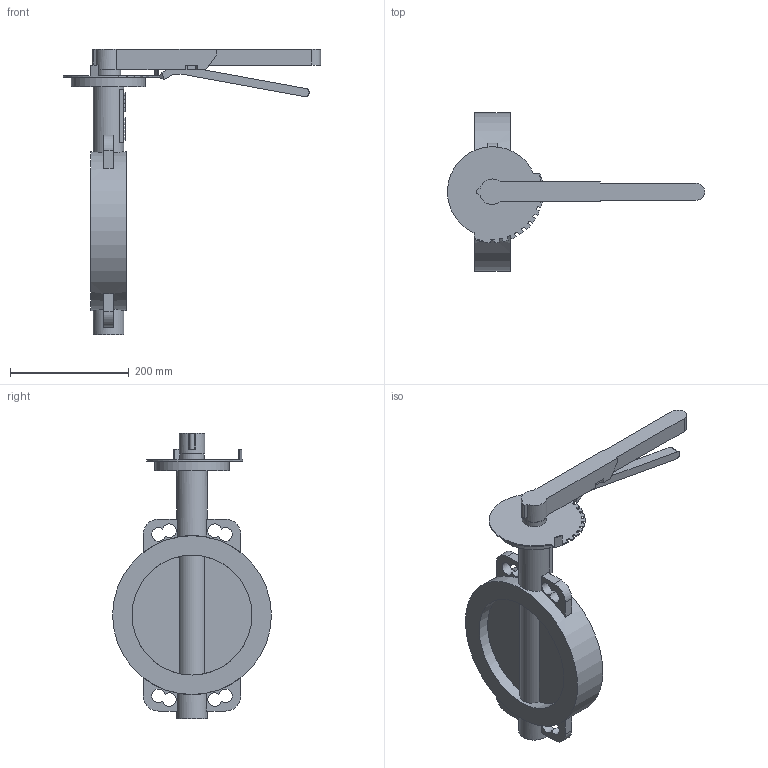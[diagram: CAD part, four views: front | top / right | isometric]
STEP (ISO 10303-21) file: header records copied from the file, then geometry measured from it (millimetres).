
FILE_DESCRIPTION(('STEP AP203'), '1');
FILE_NAME('Çàòâîð 017W.Z(÷óãóí) DN200 PN10_16 ðóêîÿòêà', '', ('UNSPECIFIED'), ('UNSPECIFIED'), 'ASCON STEP Converter 1.6', 'ASCON Math Kernel', '');
FILE_SCHEMA(('CONFIG_CONTROL_DESIGN'));
Length unit declared in the file: millimetre
Bounding box: 433.97 x 268 x 482 mm (x, y, z)
Volume: 482185.4 mm3; surface area: 372950 mm2
Topology: 1 solids, 2 shells, 884 faces, 2630 edges, 1697 vertices
Faces by surface type: cylinder 654, plane 230
Full cylindrical faces by diameter (mm): 12 x4, 22.1 x1, 41 x1, 52 x2, 70 x1, 125 x1, 202.4 x2, 268 x1
Entity records: 37776 total; most frequent: DIRECTION 5762, CARTESIAN_POINT 5663, ORIENTED_EDGE 5158, EDGE_CURVE 2618, AXIS2_PLACEMENT_3D 2273, VERTEX_POINT 1697, CIRCLE 1388, LINE 1216
